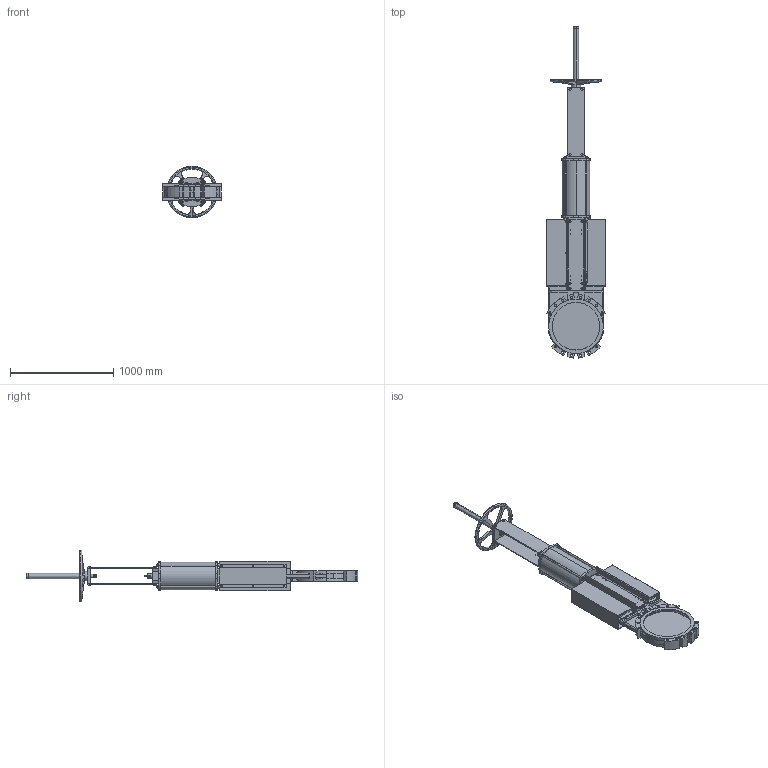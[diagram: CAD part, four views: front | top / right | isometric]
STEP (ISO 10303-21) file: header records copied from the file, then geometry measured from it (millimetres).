
FILE_DESCRIPTION (( 'STEP AP203' ), '1' );
FILE_NAME ('VG D DN450.STEP', '2010-01-29T06:12:21', ( 'farex' ), ( '' ), 'SwSTEP 2.0', 'SolidWorks 2009', '' );
FILE_SCHEMA (( 'CONFIG_CONTROL_DESIGN' ));
Products named in the file (1): VG D DN450
Bounding box: 568 x 3209.9 x 500 mm (x, y, z)
Volume: 39989759.5 mm3; surface area: 6335992.3 mm2
Topology: 2 solids, 30 shells, 1736 faces, 4374 edges, 2856 vertices
Faces by surface type: plane 1042, cylinder 521, cone 111, bspline 34, torus 28
Entity records: 55877 total; most frequent: CARTESIAN_POINT 13378, DIRECTION 8765, ORIENTED_EDGE 8748, EDGE_CURVE 4374, AXIS2_PLACEMENT_3D 2996, VERTEX_POINT 2856, VECTOR 2773, LINE 2773
